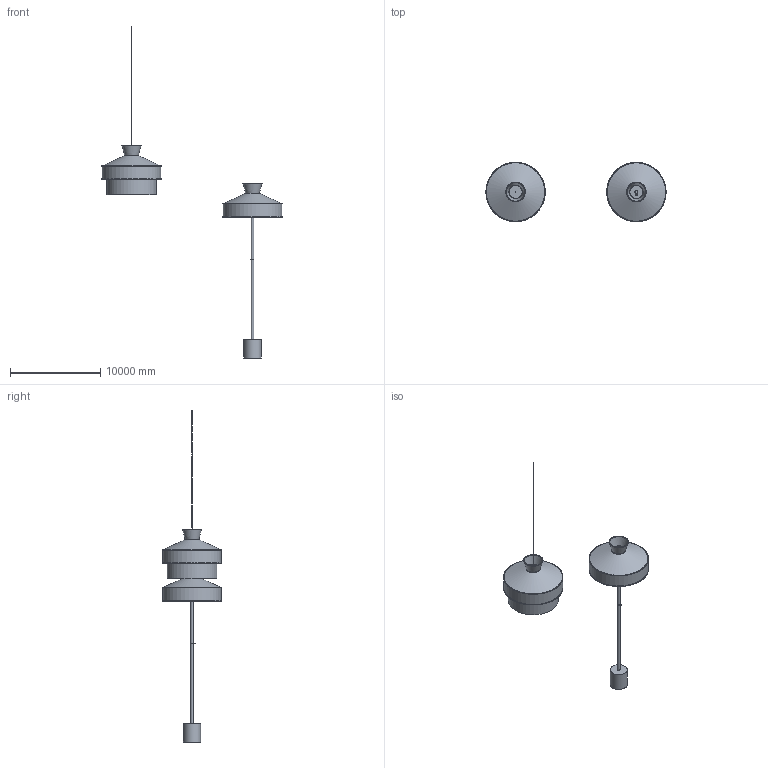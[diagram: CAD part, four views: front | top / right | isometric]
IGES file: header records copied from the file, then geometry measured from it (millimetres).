
Global section: file name: \\192.168.4.99\ufficio_tecnico\3d per sito\wagasa\wagasa.igs; native system: Rhinoceros ( Aug 10 2015 ); preprocessor: Trout Lake IGES 012 Aug 10 2015; date: 170609.082514; units: centimetre
Bounding box: 19911.73 x 6550 x 36700.21 mm (x, y, z)
Surface area: 271518590.7 mm2 (no closed solid volume)
Topology: 0 solids, 0 shells, 35 faces, 148 edges, 132 vertices
Faces by surface type: bspline 35
